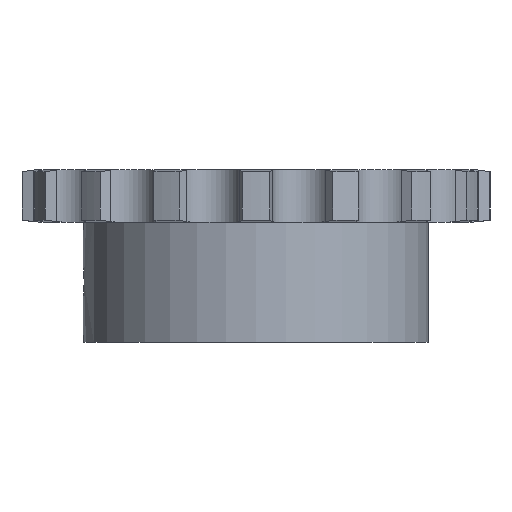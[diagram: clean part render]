
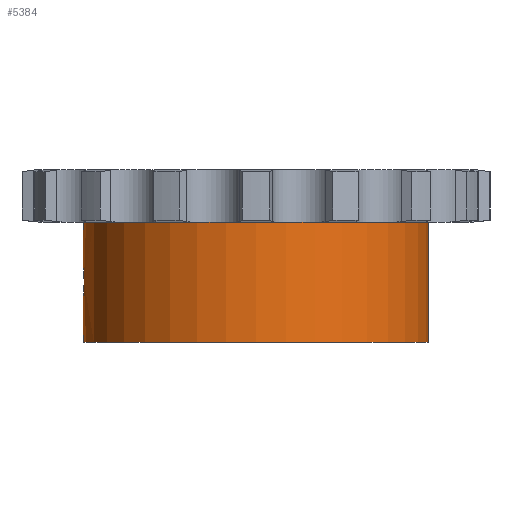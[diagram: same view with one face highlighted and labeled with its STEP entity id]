
A CAD part, front view. The second image highlights one B-rep face of the part: STEP entity #5384.
In plain terms, the highlighted cylindrical face has radius 30 mm (diameter 60 mm), a partial arc.
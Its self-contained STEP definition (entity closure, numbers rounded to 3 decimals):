
#1039=CARTESIAN_POINT('',(0.,0.,-4.55));
#1040=DIRECTION('',(0.,0.,1.));
#1041=DIRECTION('',(-1.,0.,0.));
#1042=AXIS2_PLACEMENT_3D('',#1039,#1040,#1041);
#2567=CARTESIAN_POINT('',(-30.,0.,
-12.5));
#2589=DIRECTION('',(0.,0.,1.));
#2590=VECTOR('',#2589,20.9);
#2591=CARTESIAN_POINT('',(30.,0.,-25.45));
#2592=LINE('',#2591,#2590);
#2706=CARTESIAN_POINT('',(-30.,0.,
-12.5));
#2707=CARTESIAN_POINT('',(-30.,-0.132,
-12.5));
#2708=CARTESIAN_POINT('',(-29.998,-0.394,
-12.52));
#2709=CARTESIAN_POINT('',(-29.99,-0.788,
-12.613));
#2710=CARTESIAN_POINT('',(-29.978,-1.163,
-12.767));
#2711=CARTESIAN_POINT('',(-29.963,-1.505,
-12.976));
#2712=CARTESIAN_POINT('',(-29.946,-1.807,
-13.233));
#2713=CARTESIAN_POINT('',(-29.929,-2.066,
-13.534));
#2714=CARTESIAN_POINT('',(-29.914,-2.274,
-13.875));
#2715=CARTESIAN_POINT('',(-29.902,-2.425,
-14.241));
#2716=CARTESIAN_POINT('',(-29.894,-2.515,
-14.623));
#2717=CARTESIAN_POINT('',(-29.893,-2.534,
-14.874));
#2718=CARTESIAN_POINT('',(-29.893,-2.534,
-15.));
#2723=DIRECTION('',(0.,0.,1.));
#2724=VECTOR('',#2723,7.95);
#2725=CARTESIAN_POINT('',(-30.,0.,
-12.5));
#2726=LINE('',#2725,#2724);
#2730=DIRECTION('',(0.,0.,1.));
#2731=VECTOR('',#2730,7.95);
#2732=CARTESIAN_POINT('',(-30.,0.,-25.45));
#2733=LINE('',#2732,#2731);
#2737=CARTESIAN_POINT('',(-29.893,-2.534,
-15.));
#2738=CARTESIAN_POINT('',(-29.893,-2.534,
-15.125));
#2739=CARTESIAN_POINT('',(-29.894,-2.515,
-15.376));
#2740=CARTESIAN_POINT('',(-29.902,-2.426,
-15.757));
#2741=CARTESIAN_POINT('',(-29.914,-2.275,
-16.124));
#2742=CARTESIAN_POINT('',(-29.929,-2.067,
-16.465));
#2743=CARTESIAN_POINT('',(-29.946,-1.808,
-16.766));
#2744=CARTESIAN_POINT('',(-29.963,-1.506,
-17.024));
#2745=CARTESIAN_POINT('',(-29.978,-1.164,
-17.233));
#2746=CARTESIAN_POINT('',(-29.99,-0.789,
-17.387));
#2747=CARTESIAN_POINT('',(-29.998,-0.395,
-17.48));
#2748=CARTESIAN_POINT('',(-30.,-0.132,
-17.5));
#2749=CARTESIAN_POINT('',(-30.,0.,
-17.5));
#2762=CARTESIAN_POINT('',(0.,0.,-25.45));
#2763=DIRECTION('',(0.,0.,-1.));
#2764=DIRECTION('',(1.,0.,0.));
#2765=AXIS2_PLACEMENT_3D('',#2762,#2763,#2764);
#3111=CARTESIAN_POINT('',(-30.,0.,-25.45));
#3112=CARTESIAN_POINT('',(30.,0.,-25.45));
#3113=VERTEX_POINT('',#3111);
#3114=VERTEX_POINT('',#3112);
#3115=CARTESIAN_POINT('',(30.,0.,-4.55));
#3116=VERTEX_POINT('',#3115);
#3117=CARTESIAN_POINT('',(-30.,0.,-4.55));
#3118=VERTEX_POINT('',#3117);
#3276=VERTEX_POINT('',#2567);
#3279=VERTEX_POINT('',#2718);
#3281=VERTEX_POINT('',#2749);
#5368=CARTESIAN_POINT('',(0.,0.,4.55));
#5369=DIRECTION('',(0.,0.,1.));
#5370=DIRECTION('',(1.,0.,0.));
#5371=AXIS2_PLACEMENT_3D('',#5368,#5369,#5370);
#5372=CYLINDRICAL_SURFACE('',#5371,30.);
#5373=ORIENTED_EDGE('',*,*,#5358,.F.);
#5374=ORIENTED_EDGE('',*,*,#4997,.T.);
#5375=ORIENTED_EDGE('',*,*,#4388,.T.);
#5376=ORIENTED_EDGE('',*,*,#4994,.F.);
#5378=ORIENTED_EDGE('',*,*,#5377,.T.);
#5379=ORIENTED_EDGE('',*,*,#4990,.T.);
#5381=ORIENTED_EDGE('',*,*,#5380,.F.);
#5382=EDGE_LOOP('',(#5373,#5374,#5375,#5376,#5378,#5379,#5381));
#5383=FACE_OUTER_BOUND('',#5382,.F.);
#5384=ADVANCED_FACE('',(#5383),#5372,.T.);
#1043=CIRCLE('',#1042,30.);
#2719=B_SPLINE_CURVE_WITH_KNOTS('',3,(#2706,#2707,#2708,#2709,#2710,#2711,#2712,
#2713,#2714,#2715,#2716,#2717,#2718),.UNSPECIFIED.,.F.,.F.,(4,1,1,1,1,1,1,1,1,1,
4),(0.,0.1,0.2,0.3,0.4,0.5,0.6,0.7,0.8,0.9,1.),
.UNSPECIFIED.);
#2750=B_SPLINE_CURVE_WITH_KNOTS('',3,(#2737,#2738,#2739,#2740,#2741,#2742,#2743,
#2744,#2745,#2746,#2747,#2748,#2749),.UNSPECIFIED.,.F.,.F.,(4,1,1,1,1,1,1,1,1,1,
4),(0.,0.1,0.2,0.3,0.4,0.5,0.6,0.7,0.8,0.9,1.),
.UNSPECIFIED.);
#2766=CIRCLE('',#2765,30.);
#4388=EDGE_CURVE('',#3118,#3116,#1043,.T.);
#4990=EDGE_CURVE('',#3113,#3281,#2733,.T.);
#4994=EDGE_CURVE('',#3114,#3116,#2592,.T.);
#4997=EDGE_CURVE('',#3276,#3118,#2726,.T.);
#5358=EDGE_CURVE('',#3276,#3279,#2719,.T.);
#5377=EDGE_CURVE('',#3114,#3113,#2766,.T.);
#5380=EDGE_CURVE('',#3279,#3281,#2750,.T.);
